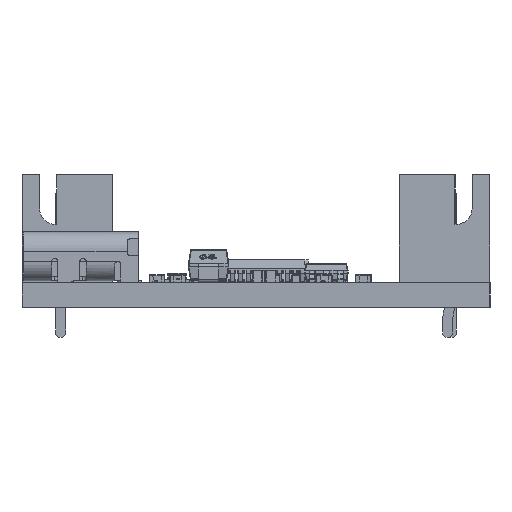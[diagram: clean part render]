
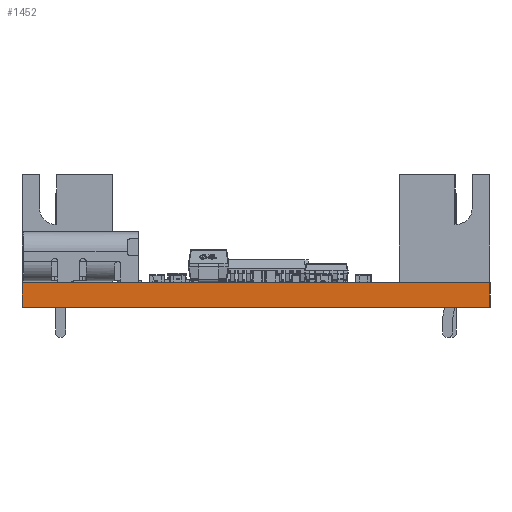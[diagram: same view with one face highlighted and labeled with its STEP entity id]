
A CAD part, left-side view. The second image highlights one B-rep face of the part: STEP entity #1452.
In plain terms, the highlighted planar face has unit normal (-1, 0, 0).
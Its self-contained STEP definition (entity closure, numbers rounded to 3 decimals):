
#192 = EDGE_CURVE('',#193,#195,#197,.T.);
#193 = VERTEX_POINT('',#194);
#194 = CARTESIAN_POINT('',(0.013,29.987,0.));
#195 = VERTEX_POINT('',#196);
#196 = CARTESIAN_POINT('',(0.013,29.987,
    1.6));
#197 = LINE('',#198,#199);
#198 = CARTESIAN_POINT('',(0.013,29.987,0.));
#199 = VECTOR('',#200,1.);
#200 = DIRECTION('',(0.,0.,1.));
#225 = VERTEX_POINT('',#226);
#226 = CARTESIAN_POINT('',(0.013,0.013,
    1.6));
#232 = EDGE_CURVE('',#233,#225,#235,.T.);
#233 = VERTEX_POINT('',#234);
#234 = CARTESIAN_POINT('',(0.013,0.013,0.));
#235 = LINE('',#236,#237);
#236 = CARTESIAN_POINT('',(0.013,0.013,0.));
#237 = VECTOR('',#238,1.);
#238 = DIRECTION('',(0.,0.,1.));
#256 = EDGE_CURVE('',#233,#193,#257,.T.);
#257 = LINE('',#258,#259);
#258 = CARTESIAN_POINT('',(0.013,0.013,0.));
#259 = VECTOR('',#260,1.);
#260 = DIRECTION('',(0.,1.,0.));
#857 = EDGE_CURVE('',#225,#195,#858,.T.);
#858 = LINE('',#859,#860);
#859 = CARTESIAN_POINT('',(0.013,0.013,
    1.6));
#860 = VECTOR('',#861,1.);
#861 = DIRECTION('',(0.,1.,0.));
#1452 = ADVANCED_FACE('',(#1453),#1459,.T.);
#1453 = FACE_BOUND('',#1454,.T.);
#1454 = EDGE_LOOP('',(#1455,#1456,#1457,#1458));
#1455 = ORIENTED_EDGE('',*,*,#232,.T.);
#1456 = ORIENTED_EDGE('',*,*,#857,.T.);
#1457 = ORIENTED_EDGE('',*,*,#192,.F.);
#1458 = ORIENTED_EDGE('',*,*,#256,.F.);
#1459 = PLANE('',#1460);
#1460 = AXIS2_PLACEMENT_3D('',#1461,#1462,#1463);
#1461 = CARTESIAN_POINT('',(0.013,0.013,0.));
#1462 = DIRECTION('',(-1.,0.,0.));
#1463 = DIRECTION('',(0.,1.,0.));
